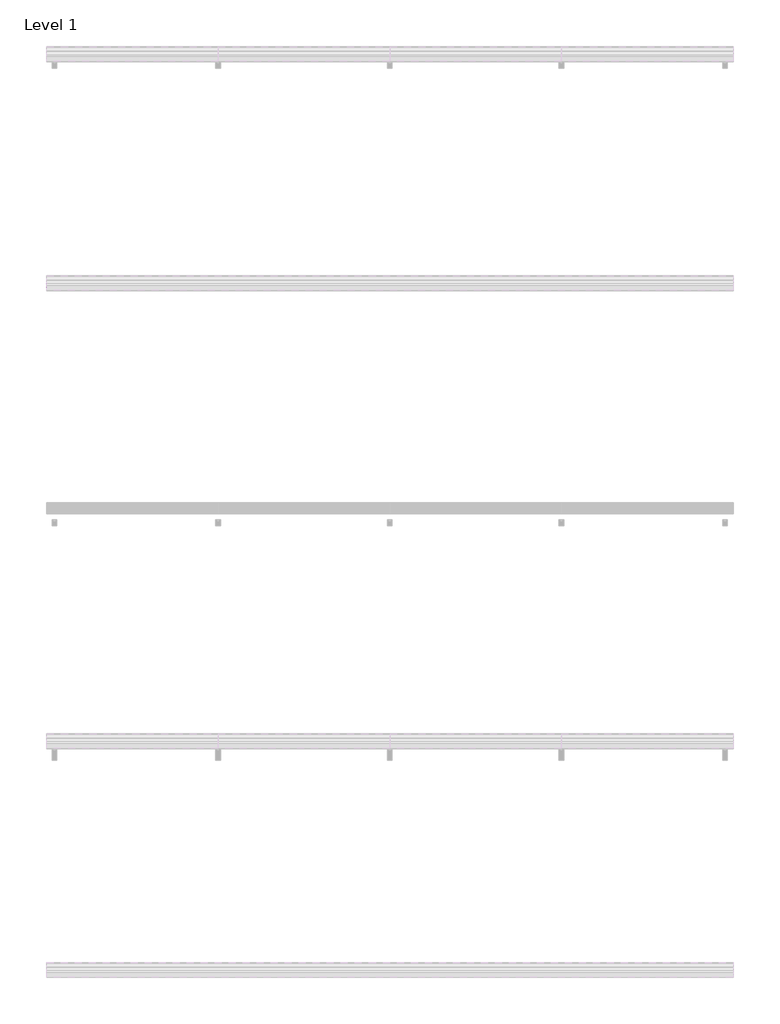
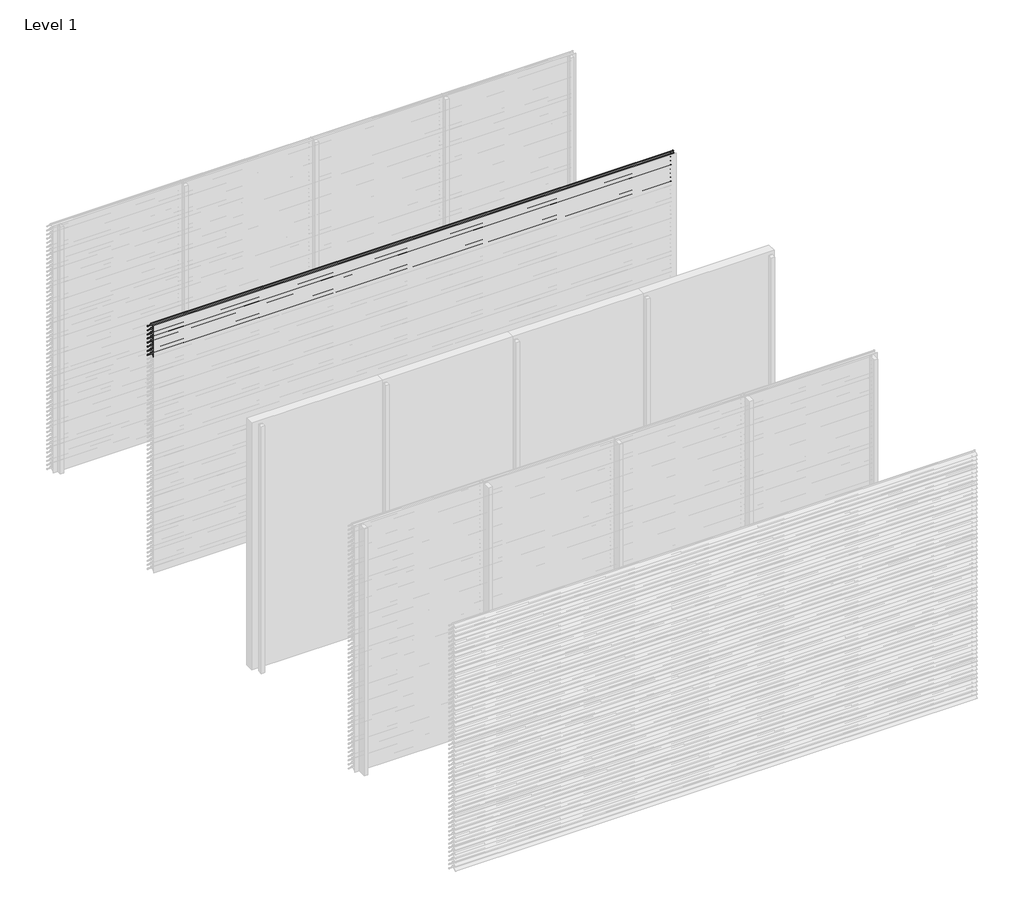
# One storey, part 71 of 173: 18 proxies.
"""IFC4 building model written with IfcOpenShell, lengths in millimetres."""

from ifc_helpers import new_model, si_unit, point, frame, frame_2d, origin, place, context, project, spatial, polyline, circle_curve, trimmed, segment, composite_curve, outline, extrude, element, save

model = new_model("IFC4")

# Units and contexts
model_context = context("Model", 3, world=origin())
ifc_project = project(units=[si_unit("LENGTHUNIT", "METRE", prefix="MILLI")], contexts=[model_context])

# Site, building, storey
site = spatial("IfcSite", under=ifc_project)
building = spatial("IfcBuilding", under=site)
storey = spatial("IfcBuildingStorey", under=building, Name="Level 1", Elevation=0.0)

# Proxies
placement = place(None, origin())
element("IfcBuildingElementProxy", 1, Name="Wall Sweeps", at=placement, inside=storey, context=model_context, shape_type="SweptSolid", body=[
    extrude(outline(composite_curve([segment(polyline([(-31998.0, 2959.1474905), (-31998.0, 2961.6227417)]), True, "CONTINUOUS"), segment(trimmed(circle_curve(frame_2d((-31951.2682172, 2916.2200208)), 65.1557103), [point((-31998.0, 2961.6227417))], [point((-31954.4014323, 2981.3003524))], False, "CARTESIAN"), True, "CONTINUOUS"), segment(polyline([(-31954.4014323, 2981.3003524), (-31934.8315836, 2981.3003524)]), True, "CONTINUOUS"), segment(trimmed(circle_curve(frame_2d((-31732.7329489, 3128.5533172)), 250.0545817), [point((-31934.8315836, 2981.3003524))], [point((-31941.4452143, 2990.8344583))], False, "CARTESIAN"), True, "CONTINUOUS"), segment(trimmed(circle_curve(frame_2d((-31953.2981792, 2985.1737835)), 13.1352966), [point((-31941.4452143, 2990.8344583))], [point((-31953.8171475, 2998.298824))], True, "CARTESIAN"), True, "CONTINUOUS"), segment(polyline([(-31953.8171475, 2998.298824), (-31953.8171475, 3000.0)]), True, "CONTINUOUS"), segment(trimmed(circle_curve(frame_2d((-31953.2981792, 2985.1737835)), 14.8352966), [point((-31953.8171475, 3000.0))], [point((-31939.9637661, 2991.6760487))], False, "CARTESIAN"), True, "CONTINUOUS"), segment(trimmed(circle_curve(frame_2d((-31732.7329489, 3128.5533172)), 248.3545817), [point((-31939.9637661, 2991.6760487))], [point((-31873.8787895, 2924.2059416))], True, "CARTESIAN"), True, "CONTINUOUS"), segment(trimmed(circle_curve(frame_2d((-31883.8147537, 2911.6649442)), 16.0), [point((-31873.8787895, 2924.2059416))], [point((-31867.8648347, 2910.4))], False, "CARTESIAN"), True, "CONTINUOUS"), segment(polyline([(-31867.8648347, 2910.4), (-31869.6712069, 2910.4)]), True, "CONTINUOUS"), segment(trimmed(circle_curve(frame_2d((-31883.8147537, 2911.6649442)), 14.2), [point((-31869.6712069, 2910.4))], [point((-31874.9518628, 2922.7594998))], True, "CARTESIAN"), True, "CONTINUOUS"), segment(trimmed(circle_curve(frame_2d((-31732.7329489, 3128.5533172)), 250.1545817), [point((-31874.9518628, 2922.7594998))], [point((-31933.7064024, 2979.6003524))], False, "CARTESIAN"), True, "CONTINUOUS"), segment(polyline([(-31933.7064024, 2979.6003524), (-31954.3602632, 2979.6003524)]), True, "CONTINUOUS"), segment(trimmed(circle_curve(frame_2d((-31951.2682172, 2916.2200208)), 63.4557103), [point((-31954.3602632, 2979.6003524))], [point((-31998.0, 2959.1474905))], True, "CARTESIAN"), True, "CONTINUOUS")], self_intersect=False)), frame((0.0, 0.0, 0.0), z_axis=(1.0, 0.0, 0.0), x_axis=(0.0, 1.0, 0.0)), (0.0, 0.0, 1.0), 6000.0),
])
element("IfcBuildingElementProxy", 2, Name="Wall Sweeps", at=placement, inside=storey, context=model_context, shape_type="SweptSolid", body=[
    extrude(outline(composite_curve([segment(polyline([(-31998.0, 2909.1474905), (-31998.0, 2911.6227417)]), True, "CONTINUOUS"), segment(trimmed(circle_curve(frame_2d((-31951.2682172, 2866.2200208)), 65.1557103), [point((-31998.0, 2911.6227417))], [point((-31954.4014323, 2931.3003524))], False, "CARTESIAN"), True, "CONTINUOUS"), segment(polyline([(-31954.4014323, 2931.3003524), (-31934.8315836, 2931.3003524)]), True, "CONTINUOUS"), segment(trimmed(circle_curve(frame_2d((-31732.7329489, 3078.5533172)), 250.0545817), [point((-31934.8315836, 2931.3003524))], [point((-31941.4452143, 2940.8344583))], False, "CARTESIAN"), True, "CONTINUOUS"), segment(trimmed(circle_curve(frame_2d((-31953.2981792, 2935.1737835)), 13.1352966), [point((-31941.4452143, 2940.8344583))], [point((-31953.8171475, 2948.298824))], True, "CARTESIAN"), True, "CONTINUOUS"), segment(polyline([(-31953.8171475, 2948.298824), (-31953.8171475, 2950.0)]), True, "CONTINUOUS"), segment(trimmed(circle_curve(frame_2d((-31953.2981792, 2935.1737835)), 14.8352966), [point((-31953.8171475, 2950.0))], [point((-31939.9637661, 2941.6760487))], False, "CARTESIAN"), True, "CONTINUOUS"), segment(trimmed(circle_curve(frame_2d((-31732.7329489, 3078.5533172)), 248.3545817), [point((-31939.9637661, 2941.6760487))], [point((-31873.8787895, 2874.2059416))], True, "CARTESIAN"), True, "CONTINUOUS"), segment(trimmed(circle_curve(frame_2d((-31883.8147537, 2861.6649442)), 16.0), [point((-31873.8787895, 2874.2059416))], [point((-31867.8648347, 2860.4))], False, "CARTESIAN"), True, "CONTINUOUS"), segment(polyline([(-31867.8648347, 2860.4), (-31869.6712069, 2860.4)]), True, "CONTINUOUS"), segment(trimmed(circle_curve(frame_2d((-31883.8147537, 2861.6649442)), 14.2), [point((-31869.6712069, 2860.4))], [point((-31874.9518628, 2872.7594998))], True, "CARTESIAN"), True, "CONTINUOUS"), segment(trimmed(circle_curve(frame_2d((-31732.7329489, 3078.5533172)), 250.1545817), [point((-31874.9518628, 2872.7594998))], [point((-31933.7064024, 2929.6003524))], False, "CARTESIAN"), True, "CONTINUOUS"), segment(polyline([(-31933.7064024, 2929.6003524), (-31954.3602632, 2929.6003524)]), True, "CONTINUOUS"), segment(trimmed(circle_curve(frame_2d((-31951.2682172, 2866.2200208)), 63.4557103), [point((-31954.3602632, 2929.6003524))], [point((-31998.0, 2909.1474905))], True, "CARTESIAN"), True, "CONTINUOUS")], self_intersect=False)), frame((0.0, 0.0, 0.0), z_axis=(1.0, 0.0, 0.0), x_axis=(0.0, 1.0, 0.0)), (0.0, 0.0, 1.0), 6000.0),
])
element("IfcBuildingElementProxy", 3, Name="Wall Sweeps", at=placement, inside=storey, context=model_context, shape_type="SweptSolid", body=[
    extrude(outline(composite_curve([segment(polyline([(-31998.0, 2859.1474905), (-31998.0, 2861.6227417)]), True, "CONTINUOUS"), segment(trimmed(circle_curve(frame_2d((-31951.2682172, 2816.2200208)), 65.1557103), [point((-31998.0, 2861.6227417))], [point((-31954.4014323, 2881.3003524))], False, "CARTESIAN"), True, "CONTINUOUS"), segment(polyline([(-31954.4014323, 2881.3003524), (-31934.8315836, 2881.3003524)]), True, "CONTINUOUS"), segment(trimmed(circle_curve(frame_2d((-31732.7329489, 3028.5533172)), 250.0545817), [point((-31934.8315836, 2881.3003524))], [point((-31941.4452143, 2890.8344583))], False, "CARTESIAN"), True, "CONTINUOUS"), segment(trimmed(circle_curve(frame_2d((-31953.2981792, 2885.1737835)), 13.1352966), [point((-31941.4452143, 2890.8344583))], [point((-31953.8171475, 2898.298824))], True, "CARTESIAN"), True, "CONTINUOUS"), segment(polyline([(-31953.8171475, 2898.298824), (-31953.8171475, 2900.0)]), True, "CONTINUOUS"), segment(trimmed(circle_curve(frame_2d((-31953.2981792, 2885.1737835)), 14.8352966), [point((-31953.8171475, 2900.0))], [point((-31939.9637661, 2891.6760487))], False, "CARTESIAN"), True, "CONTINUOUS"), segment(trimmed(circle_curve(frame_2d((-31732.7329489, 3028.5533172)), 248.3545817), [point((-31939.9637661, 2891.6760487))], [point((-31873.8787895, 2824.2059416))], True, "CARTESIAN"), True, "CONTINUOUS"), segment(trimmed(circle_curve(frame_2d((-31883.8147537, 2811.6649442)), 16.0), [point((-31873.8787895, 2824.2059416))], [point((-31867.8648347, 2810.4))], False, "CARTESIAN"), True, "CONTINUOUS"), segment(polyline([(-31867.8648347, 2810.4), (-31869.6712069, 2810.4)]), True, "CONTINUOUS"), segment(trimmed(circle_curve(frame_2d((-31883.8147537, 2811.6649442)), 14.2), [point((-31869.6712069, 2810.4))], [point((-31874.9518628, 2822.7594998))], True, "CARTESIAN"), True, "CONTINUOUS"), segment(trimmed(circle_curve(frame_2d((-31732.7329489, 3028.5533172)), 250.1545817), [point((-31874.9518628, 2822.7594998))], [point((-31933.7064024, 2879.6003524))], False, "CARTESIAN"), True, "CONTINUOUS"), segment(polyline([(-31933.7064024, 2879.6003524), (-31954.3602632, 2879.6003524)]), True, "CONTINUOUS"), segment(trimmed(circle_curve(frame_2d((-31951.2682172, 2816.2200208)), 63.4557103), [point((-31954.3602632, 2879.6003524))], [point((-31998.0, 2859.1474905))], True, "CARTESIAN"), True, "CONTINUOUS")], self_intersect=False)), frame((0.0, 0.0, 0.0), z_axis=(1.0, 0.0, 0.0), x_axis=(0.0, 1.0, 0.0)), (0.0, 0.0, 1.0), 6000.0),
])
element("IfcBuildingElementProxy", 4, Name="Wall Sweeps", at=placement, inside=storey, context=model_context, shape_type="SweptSolid", body=[
    extrude(outline(composite_curve([segment(polyline([(-31998.0, 2809.1474905), (-31998.0, 2811.6227417)]), True, "CONTINUOUS"), segment(trimmed(circle_curve(frame_2d((-31951.2682172, 2766.2200208)), 65.1557103), [point((-31998.0, 2811.6227417))], [point((-31954.4014323, 2831.3003524))], False, "CARTESIAN"), True, "CONTINUOUS"), segment(polyline([(-31954.4014323, 2831.3003524), (-31934.8315836, 2831.3003524)]), True, "CONTINUOUS"), segment(trimmed(circle_curve(frame_2d((-31732.7329489, 2978.5533172)), 250.0545817), [point((-31934.8315836, 2831.3003524))], [point((-31941.4452143, 2840.8344583))], False, "CARTESIAN"), True, "CONTINUOUS"), segment(trimmed(circle_curve(frame_2d((-31953.2981792, 2835.1737835)), 13.1352966), [point((-31941.4452143, 2840.8344583))], [point((-31953.8171475, 2848.298824))], True, "CARTESIAN"), True, "CONTINUOUS"), segment(polyline([(-31953.8171475, 2848.298824), (-31953.8171475, 2850.0)]), True, "CONTINUOUS"), segment(trimmed(circle_curve(frame_2d((-31953.2981792, 2835.1737835)), 14.8352966), [point((-31953.8171475, 2850.0))], [point((-31939.9637661, 2841.6760487))], False, "CARTESIAN"), True, "CONTINUOUS"), segment(trimmed(circle_curve(frame_2d((-31732.7329489, 2978.5533172)), 248.3545817), [point((-31939.9637661, 2841.6760487))], [point((-31873.8787895, 2774.2059416))], True, "CARTESIAN"), True, "CONTINUOUS"), segment(trimmed(circle_curve(frame_2d((-31883.8147537, 2761.6649442)), 16.0), [point((-31873.8787895, 2774.2059416))], [point((-31867.8648347, 2760.4))], False, "CARTESIAN"), True, "CONTINUOUS"), segment(polyline([(-31867.8648347, 2760.4), (-31869.6712069, 2760.4)]), True, "CONTINUOUS"), segment(trimmed(circle_curve(frame_2d((-31883.8147537, 2761.6649442)), 14.2), [point((-31869.6712069, 2760.4))], [point((-31874.9518628, 2772.7594998))], True, "CARTESIAN"), True, "CONTINUOUS"), segment(trimmed(circle_curve(frame_2d((-31732.7329489, 2978.5533172)), 250.1545817), [point((-31874.9518628, 2772.7594998))], [point((-31933.7064024, 2829.6003524))], False, "CARTESIAN"), True, "CONTINUOUS"), segment(polyline([(-31933.7064024, 2829.6003524), (-31954.3602632, 2829.6003524)]), True, "CONTINUOUS"), segment(trimmed(circle_curve(frame_2d((-31951.2682172, 2766.2200208)), 63.4557103), [point((-31954.3602632, 2829.6003524))], [point((-31998.0, 2809.1474905))], True, "CARTESIAN"), True, "CONTINUOUS")], self_intersect=False)), frame((0.0, 0.0, 0.0), z_axis=(1.0, 0.0, 0.0), x_axis=(0.0, 1.0, 0.0)), (0.0, 0.0, 1.0), 6000.0),
])
element("IfcBuildingElementProxy", 5, Name="Wall Sweeps", at=placement, inside=storey, context=model_context, shape_type="SweptSolid", body=[
    extrude(outline(composite_curve([segment(polyline([(-31998.0, 2759.1474905), (-31998.0, 2761.6227417)]), True, "CONTINUOUS"), segment(trimmed(circle_curve(frame_2d((-31951.2682172, 2716.2200208)), 65.1557103), [point((-31998.0, 2761.6227417))], [point((-31954.4014323, 2781.3003524))], False, "CARTESIAN"), True, "CONTINUOUS"), segment(polyline([(-31954.4014323, 2781.3003524), (-31934.8315836, 2781.3003524)]), True, "CONTINUOUS"), segment(trimmed(circle_curve(frame_2d((-31732.7329489, 2928.5533172)), 250.0545817), [point((-31934.8315836, 2781.3003524))], [point((-31941.4452143, 2790.8344583))], False, "CARTESIAN"), True, "CONTINUOUS"), segment(trimmed(circle_curve(frame_2d((-31953.2981792, 2785.1737835)), 13.1352966), [point((-31941.4452143, 2790.8344583))], [point((-31953.8171475, 2798.298824))], True, "CARTESIAN"), True, "CONTINUOUS"), segment(polyline([(-31953.8171475, 2798.298824), (-31953.8171475, 2800.0)]), True, "CONTINUOUS"), segment(trimmed(circle_curve(frame_2d((-31953.2981792, 2785.1737835)), 14.8352966), [point((-31953.8171475, 2800.0))], [point((-31939.9637661, 2791.6760487))], False, "CARTESIAN"), True, "CONTINUOUS"), segment(trimmed(circle_curve(frame_2d((-31732.7329489, 2928.5533172)), 248.3545817), [point((-31939.9637661, 2791.6760487))], [point((-31873.8787895, 2724.2059416))], True, "CARTESIAN"), True, "CONTINUOUS"), segment(trimmed(circle_curve(frame_2d((-31883.8147537, 2711.6649442)), 16.0), [point((-31873.8787895, 2724.2059416))], [point((-31867.8648347, 2710.4))], False, "CARTESIAN"), True, "CONTINUOUS"), segment(polyline([(-31867.8648347, 2710.4), (-31869.6712069, 2710.4)]), True, "CONTINUOUS"), segment(trimmed(circle_curve(frame_2d((-31883.8147537, 2711.6649442)), 14.2), [point((-31869.6712069, 2710.4))], [point((-31874.9518628, 2722.7594998))], True, "CARTESIAN"), True, "CONTINUOUS"), segment(trimmed(circle_curve(frame_2d((-31732.7329489, 2928.5533172)), 250.1545817), [point((-31874.9518628, 2722.7594998))], [point((-31933.7064024, 2779.6003524))], False, "CARTESIAN"), True, "CONTINUOUS"), segment(polyline([(-31933.7064024, 2779.6003524), (-31954.3602632, 2779.6003524)]), True, "CONTINUOUS"), segment(trimmed(circle_curve(frame_2d((-31951.2682172, 2716.2200208)), 63.4557103), [point((-31954.3602632, 2779.6003524))], [point((-31998.0, 2759.1474905))], True, "CARTESIAN"), True, "CONTINUOUS")], self_intersect=False)), frame((0.0, 0.0, 0.0), z_axis=(1.0, 0.0, 0.0), x_axis=(0.0, 1.0, 0.0)), (0.0, 0.0, 1.0), 6000.0),
])
element("IfcBuildingElementProxy", 6, Name="Wall Sweeps", at=placement, inside=storey, context=model_context, shape_type="SweptSolid", body=[
    extrude(outline(composite_curve([segment(polyline([(-31998.0, 2709.1474905), (-31998.0, 2711.6227417)]), True, "CONTINUOUS"), segment(trimmed(circle_curve(frame_2d((-31951.2682172, 2666.2200208)), 65.1557103), [point((-31998.0, 2711.6227417))], [point((-31954.4014323, 2731.3003524))], False, "CARTESIAN"), True, "CONTINUOUS"), segment(polyline([(-31954.4014323, 2731.3003524), (-31934.8315836, 2731.3003524)]), True, "CONTINUOUS"), segment(trimmed(circle_curve(frame_2d((-31732.7329489, 2878.5533172)), 250.0545817), [point((-31934.8315836, 2731.3003524))], [point((-31941.4452143, 2740.8344583))], False, "CARTESIAN"), True, "CONTINUOUS"), segment(trimmed(circle_curve(frame_2d((-31953.2981792, 2735.1737835)), 13.1352966), [point((-31941.4452143, 2740.8344583))], [point((-31953.8171475, 2748.298824))], True, "CARTESIAN"), True, "CONTINUOUS"), segment(polyline([(-31953.8171475, 2748.298824), (-31953.8171475, 2750.0)]), True, "CONTINUOUS"), segment(trimmed(circle_curve(frame_2d((-31953.2981792, 2735.1737835)), 14.8352966), [point((-31953.8171475, 2750.0))], [point((-31939.9637661, 2741.6760487))], False, "CARTESIAN"), True, "CONTINUOUS"), segment(trimmed(circle_curve(frame_2d((-31732.7329489, 2878.5533172)), 248.3545817), [point((-31939.9637661, 2741.6760487))], [point((-31873.8787895, 2674.2059416))], True, "CARTESIAN"), True, "CONTINUOUS"), segment(trimmed(circle_curve(frame_2d((-31883.8147537, 2661.6649442)), 16.0), [point((-31873.8787895, 2674.2059416))], [point((-31867.8648347, 2660.4))], False, "CARTESIAN"), True, "CONTINUOUS"), segment(polyline([(-31867.8648347, 2660.4), (-31869.6712069, 2660.4)]), True, "CONTINUOUS"), segment(trimmed(circle_curve(frame_2d((-31883.8147537, 2661.6649442)), 14.2), [point((-31869.6712069, 2660.4))], [point((-31874.9518628, 2672.7594998))], True, "CARTESIAN"), True, "CONTINUOUS"), segment(trimmed(circle_curve(frame_2d((-31732.7329489, 2878.5533172)), 250.1545817), [point((-31874.9518628, 2672.7594998))], [point((-31933.7064024, 2729.6003524))], False, "CARTESIAN"), True, "CONTINUOUS"), segment(polyline([(-31933.7064024, 2729.6003524), (-31954.3602632, 2729.6003524)]), True, "CONTINUOUS"), segment(trimmed(circle_curve(frame_2d((-31951.2682172, 2666.2200208)), 63.4557103), [point((-31954.3602632, 2729.6003524))], [point((-31998.0, 2709.1474905))], True, "CARTESIAN"), True, "CONTINUOUS")], self_intersect=False)), frame((0.0, 0.0, 0.0), z_axis=(1.0, 0.0, 0.0), x_axis=(0.0, 1.0, 0.0)), (0.0, 0.0, 1.0), 6000.0),
])
element("IfcBuildingElementProxy", 7, Name="Wall Sweeps", at=placement, inside=storey, context=model_context, shape_type="SweptSolid", body=[
    extrude(outline(composite_curve([segment(polyline([(-31998.0, 2659.1474905), (-31998.0, 2661.6227417)]), True, "CONTINUOUS"), segment(trimmed(circle_curve(frame_2d((-31951.2682172, 2616.2200208)), 65.1557103), [point((-31998.0, 2661.6227417))], [point((-31954.4014323, 2681.3003524))], False, "CARTESIAN"), True, "CONTINUOUS"), segment(polyline([(-31954.4014323, 2681.3003524), (-31934.8315836, 2681.3003524)]), True, "CONTINUOUS"), segment(trimmed(circle_curve(frame_2d((-31732.7329489, 2828.5533172)), 250.0545817), [point((-31934.8315836, 2681.3003524))], [point((-31941.4452143, 2690.8344583))], False, "CARTESIAN"), True, "CONTINUOUS"), segment(trimmed(circle_curve(frame_2d((-31953.2981792, 2685.1737835)), 13.1352966), [point((-31941.4452143, 2690.8344583))], [point((-31953.8171475, 2698.298824))], True, "CARTESIAN"), True, "CONTINUOUS"), segment(polyline([(-31953.8171475, 2698.298824), (-31953.8171475, 2700.0)]), True, "CONTINUOUS"), segment(trimmed(circle_curve(frame_2d((-31953.2981792, 2685.1737835)), 14.8352966), [point((-31953.8171475, 2700.0))], [point((-31939.9637661, 2691.6760487))], False, "CARTESIAN"), True, "CONTINUOUS"), segment(trimmed(circle_curve(frame_2d((-31732.7329489, 2828.5533172)), 248.3545817), [point((-31939.9637661, 2691.6760487))], [point((-31873.8787895, 2624.2059416))], True, "CARTESIAN"), True, "CONTINUOUS"), segment(trimmed(circle_curve(frame_2d((-31883.8147537, 2611.6649442)), 16.0), [point((-31873.8787895, 2624.2059416))], [point((-31867.8648347, 2610.4))], False, "CARTESIAN"), True, "CONTINUOUS"), segment(polyline([(-31867.8648347, 2610.4), (-31869.6712069, 2610.4)]), True, "CONTINUOUS"), segment(trimmed(circle_curve(frame_2d((-31883.8147537, 2611.6649442)), 14.2), [point((-31869.6712069, 2610.4))], [point((-31874.9518628, 2622.7594998))], True, "CARTESIAN"), True, "CONTINUOUS"), segment(trimmed(circle_curve(frame_2d((-31732.7329489, 2828.5533172)), 250.1545817), [point((-31874.9518628, 2622.7594998))], [point((-31933.7064024, 2679.6003524))], False, "CARTESIAN"), True, "CONTINUOUS"), segment(polyline([(-31933.7064024, 2679.6003524), (-31954.3602632, 2679.6003524)]), True, "CONTINUOUS"), segment(trimmed(circle_curve(frame_2d((-31951.2682172, 2616.2200208)), 63.4557103), [point((-31954.3602632, 2679.6003524))], [point((-31998.0, 2659.1474905))], True, "CARTESIAN"), True, "CONTINUOUS")], self_intersect=False)), frame((0.0, 0.0, 0.0), z_axis=(1.0, 0.0, 0.0), x_axis=(0.0, 1.0, 0.0)), (0.0, 0.0, 1.0), 6000.0),
])
element("IfcBuildingElementProxy", 8, Name="Wall Sweeps", at=placement, inside=storey, context=model_context, shape_type="SweptSolid", body=[
    extrude(outline(composite_curve([segment(polyline([(-31998.0, 2609.1474905), (-31998.0, 2611.6227417)]), True, "CONTINUOUS"), segment(trimmed(circle_curve(frame_2d((-31951.2682172, 2566.2200208)), 65.1557103), [point((-31998.0, 2611.6227417))], [point((-31954.4014323, 2631.3003524))], False, "CARTESIAN"), True, "CONTINUOUS"), segment(polyline([(-31954.4014323, 2631.3003524), (-31934.8315836, 2631.3003524)]), True, "CONTINUOUS"), segment(trimmed(circle_curve(frame_2d((-31732.7329489, 2778.5533172)), 250.0545817), [point((-31934.8315836, 2631.3003524))], [point((-31941.4452143, 2640.8344583))], False, "CARTESIAN"), True, "CONTINUOUS"), segment(trimmed(circle_curve(frame_2d((-31953.2981792, 2635.1737835)), 13.1352966), [point((-31941.4452143, 2640.8344583))], [point((-31953.8171475, 2648.298824))], True, "CARTESIAN"), True, "CONTINUOUS"), segment(polyline([(-31953.8171475, 2648.298824), (-31953.8171475, 2650.0)]), True, "CONTINUOUS"), segment(trimmed(circle_curve(frame_2d((-31953.2981792, 2635.1737835)), 14.8352966), [point((-31953.8171475, 2650.0))], [point((-31939.9637661, 2641.6760487))], False, "CARTESIAN"), True, "CONTINUOUS"), segment(trimmed(circle_curve(frame_2d((-31732.7329489, 2778.5533172)), 248.3545817), [point((-31939.9637661, 2641.6760487))], [point((-31873.8787895, 2574.2059416))], True, "CARTESIAN"), True, "CONTINUOUS"), segment(trimmed(circle_curve(frame_2d((-31883.8147537, 2561.6649442)), 16.0), [point((-31873.8787895, 2574.2059416))], [point((-31867.8648347, 2560.4))], False, "CARTESIAN"), True, "CONTINUOUS"), segment(polyline([(-31867.8648347, 2560.4), (-31869.6712069, 2560.4)]), True, "CONTINUOUS"), segment(trimmed(circle_curve(frame_2d((-31883.8147537, 2561.6649442)), 14.2), [point((-31869.6712069, 2560.4))], [point((-31874.9518628, 2572.7594998))], True, "CARTESIAN"), True, "CONTINUOUS"), segment(trimmed(circle_curve(frame_2d((-31732.7329489, 2778.5533172)), 250.1545817), [point((-31874.9518628, 2572.7594998))], [point((-31933.7064024, 2629.6003524))], False, "CARTESIAN"), True, "CONTINUOUS"), segment(polyline([(-31933.7064024, 2629.6003524), (-31954.3602632, 2629.6003524)]), True, "CONTINUOUS"), segment(trimmed(circle_curve(frame_2d((-31951.2682172, 2566.2200208)), 63.4557103), [point((-31954.3602632, 2629.6003524))], [point((-31998.0, 2609.1474905))], True, "CARTESIAN"), True, "CONTINUOUS")], self_intersect=False)), frame((0.0, 0.0, 0.0), z_axis=(1.0, 0.0, 0.0), x_axis=(0.0, 1.0, 0.0)), (0.0, 0.0, 1.0), 6000.0),
])
element("IfcBuildingElementProxy", 9, Name="Wall Sweeps", at=placement, inside=storey, context=model_context, shape_type="SweptSolid", body=[
    extrude(outline(composite_curve([segment(polyline([(-35998.0, 459.1474905), (-35998.0, 461.6227417)]), True, "CONTINUOUS"), segment(trimmed(circle_curve(frame_2d((-35951.2682172, 416.2200208)), 65.1557103), [point((-35998.0, 461.6227417))], [point((-35954.4014323, 481.3003524))], False, "CARTESIAN"), True, "CONTINUOUS"), segment(polyline([(-35954.4014323, 481.3003524), (-35934.8315836, 481.3003524)]), True, "CONTINUOUS"), segment(trimmed(circle_curve(frame_2d((-35732.7329489, 628.5533172)), 250.0545817), [point((-35934.8315836, 481.3003524))], [point((-35941.4452143, 490.8344583))], False, "CARTESIAN"), True, "CONTINUOUS"), segment(trimmed(circle_curve(frame_2d((-35953.2981792, 485.1737835)), 13.1352966), [point((-35941.4452143, 490.8344583))], [point((-35953.8171475, 498.298824))], True, "CARTESIAN"), True, "CONTINUOUS"), segment(polyline([(-35953.8171475, 498.298824), (-35953.8171475, 500.0)]), True, "CONTINUOUS"), segment(trimmed(circle_curve(frame_2d((-35953.2981792, 485.1737835)), 14.8352966), [point((-35953.8171475, 500.0))], [point((-35939.9637661, 491.6760487))], False, "CARTESIAN"), True, "CONTINUOUS"), segment(trimmed(circle_curve(frame_2d((-35732.7329489, 628.5533172)), 248.3545817), [point((-35939.9637661, 491.6760487))], [point((-35873.8787895, 424.2059416))], True, "CARTESIAN"), True, "CONTINUOUS"), segment(trimmed(circle_curve(frame_2d((-35883.8147537, 411.6649442)), 16.0), [point((-35873.8787895, 424.2059416))], [point((-35867.8648347, 410.4))], False, "CARTESIAN"), True, "CONTINUOUS"), segment(polyline([(-35867.8648347, 410.4), (-35869.6712069, 410.4)]), True, "CONTINUOUS"), segment(trimmed(circle_curve(frame_2d((-35883.8147537, 411.6649442)), 14.2), [point((-35869.6712069, 410.4))], [point((-35874.9518628, 422.7594998))], True, "CARTESIAN"), True, "CONTINUOUS"), segment(trimmed(circle_curve(frame_2d((-35732.7329489, 628.5533172)), 250.1545817), [point((-35874.9518628, 422.7594998))], [point((-35933.7064024, 479.6003524))], False, "CARTESIAN"), True, "CONTINUOUS"), segment(polyline([(-35933.7064024, 479.6003524), (-35954.3602632, 479.6003524)]), True, "CONTINUOUS"), segment(trimmed(circle_curve(frame_2d((-35951.2682172, 416.2200208)), 63.4557103), [point((-35954.3602632, 479.6003524))], [point((-35998.0, 459.1474905))], True, "CARTESIAN"), True, "CONTINUOUS")], self_intersect=False)), frame((4500.0, 0.0, 0.0), z_axis=(1.0, 0.0, 0.0), x_axis=(0.0, 1.0, 0.0)), (0.0, 0.0, 1.0), 1500.0),
])
element("IfcBuildingElementProxy", 10, Name="Wall Sweeps", at=placement, inside=storey, context=model_context, shape_type="SweptSolid", body=[
    extrude(outline(composite_curve([segment(polyline([(-35998.0, 409.1474905), (-35998.0, 411.6227417)]), True, "CONTINUOUS"), segment(trimmed(circle_curve(frame_2d((-35951.2682172, 366.2200208)), 65.1557103), [point((-35998.0, 411.6227417))], [point((-35954.4014323, 431.3003524))], False, "CARTESIAN"), True, "CONTINUOUS"), segment(polyline([(-35954.4014323, 431.3003524), (-35934.8315836, 431.3003524)]), True, "CONTINUOUS"), segment(trimmed(circle_curve(frame_2d((-35732.7329489, 578.5533172)), 250.0545817), [point((-35934.8315836, 431.3003524))], [point((-35941.4452143, 440.8344583))], False, "CARTESIAN"), True, "CONTINUOUS"), segment(trimmed(circle_curve(frame_2d((-35953.2981792, 435.1737835)), 13.1352966), [point((-35941.4452143, 440.8344583))], [point((-35953.8171475, 448.298824))], True, "CARTESIAN"), True, "CONTINUOUS"), segment(polyline([(-35953.8171475, 448.298824), (-35953.8171475, 450.0)]), True, "CONTINUOUS"), segment(trimmed(circle_curve(frame_2d((-35953.2981792, 435.1737835)), 14.8352966), [point((-35953.8171475, 450.0))], [point((-35939.9637661, 441.6760487))], False, "CARTESIAN"), True, "CONTINUOUS"), segment(trimmed(circle_curve(frame_2d((-35732.7329489, 578.5533172)), 248.3545817), [point((-35939.9637661, 441.6760487))], [point((-35873.8787895, 374.2059416))], True, "CARTESIAN"), True, "CONTINUOUS"), segment(trimmed(circle_curve(frame_2d((-35883.8147537, 361.6649442)), 16.0), [point((-35873.8787895, 374.2059416))], [point((-35867.8648347, 360.4))], False, "CARTESIAN"), True, "CONTINUOUS"), segment(polyline([(-35867.8648347, 360.4), (-35869.6712069, 360.4)]), True, "CONTINUOUS"), segment(trimmed(circle_curve(frame_2d((-35883.8147537, 361.6649442)), 14.2), [point((-35869.6712069, 360.4))], [point((-35874.9518628, 372.7594998))], True, "CARTESIAN"), True, "CONTINUOUS"), segment(trimmed(circle_curve(frame_2d((-35732.7329489, 578.5533172)), 250.1545817), [point((-35874.9518628, 372.7594998))], [point((-35933.7064024, 429.6003524))], False, "CARTESIAN"), True, "CONTINUOUS"), segment(polyline([(-35933.7064024, 429.6003524), (-35954.3602632, 429.6003524)]), True, "CONTINUOUS"), segment(trimmed(circle_curve(frame_2d((-35951.2682172, 366.2200208)), 63.4557103), [point((-35954.3602632, 429.6003524))], [point((-35998.0, 409.1474905))], True, "CARTESIAN"), True, "CONTINUOUS")], self_intersect=False)), frame((4500.0, 0.0, 0.0), z_axis=(1.0, 0.0, 0.0), x_axis=(0.0, 1.0, 0.0)), (0.0, 0.0, 1.0), 1500.0),
])
element("IfcBuildingElementProxy", 11, Name="Wall Sweeps", at=placement, inside=storey, context=model_context, shape_type="SweptSolid", body=[
    extrude(outline(composite_curve([segment(polyline([(-35998.0, 359.1474905), (-35998.0, 361.6227417)]), True, "CONTINUOUS"), segment(trimmed(circle_curve(frame_2d((-35951.2682172, 316.2200208)), 65.1557103), [point((-35998.0, 361.6227417))], [point((-35954.4014323, 381.3003524))], False, "CARTESIAN"), True, "CONTINUOUS"), segment(polyline([(-35954.4014323, 381.3003524), (-35934.8315836, 381.3003524)]), True, "CONTINUOUS"), segment(trimmed(circle_curve(frame_2d((-35732.7329489, 528.5533172)), 250.0545817), [point((-35934.8315836, 381.3003524))], [point((-35941.4452143, 390.8344583))], False, "CARTESIAN"), True, "CONTINUOUS"), segment(trimmed(circle_curve(frame_2d((-35953.2981792, 385.1737835)), 13.1352966), [point((-35941.4452143, 390.8344583))], [point((-35953.8171475, 398.298824))], True, "CARTESIAN"), True, "CONTINUOUS"), segment(polyline([(-35953.8171475, 398.298824), (-35953.8171475, 400.0)]), True, "CONTINUOUS"), segment(trimmed(circle_curve(frame_2d((-35953.2981792, 385.1737835)), 14.8352966), [point((-35953.8171475, 400.0))], [point((-35939.9637661, 391.6760487))], False, "CARTESIAN"), True, "CONTINUOUS"), segment(trimmed(circle_curve(frame_2d((-35732.7329489, 528.5533172)), 248.3545817), [point((-35939.9637661, 391.6760487))], [point((-35873.8787895, 324.2059416))], True, "CARTESIAN"), True, "CONTINUOUS"), segment(trimmed(circle_curve(frame_2d((-35883.8147537, 311.6649442)), 16.0), [point((-35873.8787895, 324.2059416))], [point((-35867.8648347, 310.4))], False, "CARTESIAN"), True, "CONTINUOUS"), segment(polyline([(-35867.8648347, 310.4), (-35869.6712069, 310.4)]), True, "CONTINUOUS"), segment(trimmed(circle_curve(frame_2d((-35883.8147537, 311.6649442)), 14.2), [point((-35869.6712069, 310.4))], [point((-35874.9518628, 322.7594998))], True, "CARTESIAN"), True, "CONTINUOUS"), segment(trimmed(circle_curve(frame_2d((-35732.7329489, 528.5533172)), 250.1545817), [point((-35874.9518628, 322.7594998))], [point((-35933.7064024, 379.6003524))], False, "CARTESIAN"), True, "CONTINUOUS"), segment(polyline([(-35933.7064024, 379.6003524), (-35954.3602632, 379.6003524)]), True, "CONTINUOUS"), segment(trimmed(circle_curve(frame_2d((-35951.2682172, 316.2200208)), 63.4557103), [point((-35954.3602632, 379.6003524))], [point((-35998.0, 359.1474905))], True, "CARTESIAN"), True, "CONTINUOUS")], self_intersect=False)), frame((4500.0, 0.0, 0.0), z_axis=(1.0, 0.0, 0.0), x_axis=(0.0, 1.0, 0.0)), (0.0, 0.0, 1.0), 1500.0),
])
element("IfcBuildingElementProxy", 12, Name="Wall Sweeps", at=placement, inside=storey, context=model_context, shape_type="SweptSolid", body=[
    extrude(outline(composite_curve([segment(polyline([(-35998.0, 309.1474905), (-35998.0, 311.6227417)]), True, "CONTINUOUS"), segment(trimmed(circle_curve(frame_2d((-35951.2682172, 266.2200208)), 65.1557103), [point((-35998.0, 311.6227417))], [point((-35954.4014323, 331.3003524))], False, "CARTESIAN"), True, "CONTINUOUS"), segment(polyline([(-35954.4014323, 331.3003524), (-35934.8315836, 331.3003524)]), True, "CONTINUOUS"), segment(trimmed(circle_curve(frame_2d((-35732.7329489, 478.5533172)), 250.0545817), [point((-35934.8315836, 331.3003524))], [point((-35941.4452143, 340.8344583))], False, "CARTESIAN"), True, "CONTINUOUS"), segment(trimmed(circle_curve(frame_2d((-35953.2981792, 335.1737835)), 13.1352966), [point((-35941.4452143, 340.8344583))], [point((-35953.8171475, 348.298824))], True, "CARTESIAN"), True, "CONTINUOUS"), segment(polyline([(-35953.8171475, 348.298824), (-35953.8171475, 350.0)]), True, "CONTINUOUS"), segment(trimmed(circle_curve(frame_2d((-35953.2981792, 335.1737835)), 14.8352966), [point((-35953.8171475, 350.0))], [point((-35939.9637661, 341.6760487))], False, "CARTESIAN"), True, "CONTINUOUS"), segment(trimmed(circle_curve(frame_2d((-35732.7329489, 478.5533172)), 248.3545817), [point((-35939.9637661, 341.6760487))], [point((-35873.8787895, 274.2059416))], True, "CARTESIAN"), True, "CONTINUOUS"), segment(trimmed(circle_curve(frame_2d((-35883.8147537, 261.6649442)), 16.0), [point((-35873.8787895, 274.2059416))], [point((-35867.8648347, 260.4))], False, "CARTESIAN"), True, "CONTINUOUS"), segment(polyline([(-35867.8648347, 260.4), (-35869.6712069, 260.4)]), True, "CONTINUOUS"), segment(trimmed(circle_curve(frame_2d((-35883.8147537, 261.6649442)), 14.2), [point((-35869.6712069, 260.4))], [point((-35874.9518628, 272.7594998))], True, "CARTESIAN"), True, "CONTINUOUS"), segment(trimmed(circle_curve(frame_2d((-35732.7329489, 478.5533172)), 250.1545817), [point((-35874.9518628, 272.7594998))], [point((-35933.7064024, 329.6003524))], False, "CARTESIAN"), True, "CONTINUOUS"), segment(polyline([(-35933.7064024, 329.6003524), (-35954.3602632, 329.6003524)]), True, "CONTINUOUS"), segment(trimmed(circle_curve(frame_2d((-35951.2682172, 266.2200208)), 63.4557103), [point((-35954.3602632, 329.6003524))], [point((-35998.0, 309.1474905))], True, "CARTESIAN"), True, "CONTINUOUS")], self_intersect=False)), frame((4500.0, 0.0, 0.0), z_axis=(1.0, 0.0, 0.0), x_axis=(0.0, 1.0, 0.0)), (0.0, 0.0, 1.0), 1500.0),
])
element("IfcBuildingElementProxy", 13, Name="Wall Sweeps", at=placement, inside=storey, context=model_context, shape_type="SweptSolid", body=[
    extrude(outline(composite_curve([segment(polyline([(-35998.0, 259.1474905), (-35998.0, 261.6227417)]), True, "CONTINUOUS"), segment(trimmed(circle_curve(frame_2d((-35951.2682172, 216.2200208)), 65.1557103), [point((-35998.0, 261.6227417))], [point((-35954.4014323, 281.3003524))], False, "CARTESIAN"), True, "CONTINUOUS"), segment(polyline([(-35954.4014323, 281.3003524), (-35934.8315836, 281.3003524)]), True, "CONTINUOUS"), segment(trimmed(circle_curve(frame_2d((-35732.7329489, 428.5533172)), 250.0545817), [point((-35934.8315836, 281.3003524))], [point((-35941.4452143, 290.8344583))], False, "CARTESIAN"), True, "CONTINUOUS"), segment(trimmed(circle_curve(frame_2d((-35953.2981792, 285.1737835)), 13.1352966), [point((-35941.4452143, 290.8344583))], [point((-35953.8171475, 298.298824))], True, "CARTESIAN"), True, "CONTINUOUS"), segment(polyline([(-35953.8171475, 298.298824), (-35953.8171475, 300.0)]), True, "CONTINUOUS"), segment(trimmed(circle_curve(frame_2d((-35953.2981792, 285.1737835)), 14.8352966), [point((-35953.8171475, 300.0))], [point((-35939.9637661, 291.6760487))], False, "CARTESIAN"), True, "CONTINUOUS"), segment(trimmed(circle_curve(frame_2d((-35732.7329489, 428.5533172)), 248.3545817), [point((-35939.9637661, 291.6760487))], [point((-35873.8787895, 224.2059416))], True, "CARTESIAN"), True, "CONTINUOUS"), segment(trimmed(circle_curve(frame_2d((-35883.8147537, 211.6649442)), 16.0), [point((-35873.8787895, 224.2059416))], [point((-35867.8648347, 210.4))], False, "CARTESIAN"), True, "CONTINUOUS"), segment(polyline([(-35867.8648347, 210.4), (-35869.6712069, 210.4)]), True, "CONTINUOUS"), segment(trimmed(circle_curve(frame_2d((-35883.8147537, 211.6649442)), 14.2), [point((-35869.6712069, 210.4))], [point((-35874.9518628, 222.7594998))], True, "CARTESIAN"), True, "CONTINUOUS"), segment(trimmed(circle_curve(frame_2d((-35732.7329489, 428.5533172)), 250.1545817), [point((-35874.9518628, 222.7594998))], [point((-35933.7064024, 279.6003524))], False, "CARTESIAN"), True, "CONTINUOUS"), segment(polyline([(-35933.7064024, 279.6003524), (-35954.3602632, 279.6003524)]), True, "CONTINUOUS"), segment(trimmed(circle_curve(frame_2d((-35951.2682172, 216.2200208)), 63.4557103), [point((-35954.3602632, 279.6003524))], [point((-35998.0, 259.1474905))], True, "CARTESIAN"), True, "CONTINUOUS")], self_intersect=False)), frame((4500.0, 0.0, 0.0), z_axis=(1.0, 0.0, 0.0), x_axis=(0.0, 1.0, 0.0)), (0.0, 0.0, 1.0), 1500.0),
])
element("IfcBuildingElementProxy", 14, Name="Wall Sweeps", at=placement, inside=storey, context=model_context, shape_type="SweptSolid", body=[
    extrude(outline(composite_curve([segment(polyline([(-35998.0, 209.1474905), (-35998.0, 211.6227417)]), True, "CONTINUOUS"), segment(trimmed(circle_curve(frame_2d((-35951.2682172, 166.2200208)), 65.1557103), [point((-35998.0, 211.6227417))], [point((-35954.4014323, 231.3003524))], False, "CARTESIAN"), True, "CONTINUOUS"), segment(polyline([(-35954.4014323, 231.3003524), (-35934.8315836, 231.3003524)]), True, "CONTINUOUS"), segment(trimmed(circle_curve(frame_2d((-35732.7329489, 378.5533172)), 250.0545817), [point((-35934.8315836, 231.3003524))], [point((-35941.4452143, 240.8344583))], False, "CARTESIAN"), True, "CONTINUOUS"), segment(trimmed(circle_curve(frame_2d((-35953.2981792, 235.1737835)), 13.1352966), [point((-35941.4452143, 240.8344583))], [point((-35953.8171475, 248.298824))], True, "CARTESIAN"), True, "CONTINUOUS"), segment(polyline([(-35953.8171475, 248.298824), (-35953.8171475, 250.0)]), True, "CONTINUOUS"), segment(trimmed(circle_curve(frame_2d((-35953.2981792, 235.1737835)), 14.8352966), [point((-35953.8171475, 250.0))], [point((-35939.9637661, 241.6760487))], False, "CARTESIAN"), True, "CONTINUOUS"), segment(trimmed(circle_curve(frame_2d((-35732.7329489, 378.5533172)), 248.3545817), [point((-35939.9637661, 241.6760487))], [point((-35873.8787895, 174.2059416))], True, "CARTESIAN"), True, "CONTINUOUS"), segment(trimmed(circle_curve(frame_2d((-35883.8147537, 161.6649442)), 16.0), [point((-35873.8787895, 174.2059416))], [point((-35867.8648347, 160.4))], False, "CARTESIAN"), True, "CONTINUOUS"), segment(polyline([(-35867.8648347, 160.4), (-35869.6712069, 160.4)]), True, "CONTINUOUS"), segment(trimmed(circle_curve(frame_2d((-35883.8147537, 161.6649442)), 14.2), [point((-35869.6712069, 160.4))], [point((-35874.9518628, 172.7594998))], True, "CARTESIAN"), True, "CONTINUOUS"), segment(trimmed(circle_curve(frame_2d((-35732.7329489, 378.5533172)), 250.1545817), [point((-35874.9518628, 172.7594998))], [point((-35933.7064024, 229.6003524))], False, "CARTESIAN"), True, "CONTINUOUS"), segment(polyline([(-35933.7064024, 229.6003524), (-35954.3602632, 229.6003524)]), True, "CONTINUOUS"), segment(trimmed(circle_curve(frame_2d((-35951.2682172, 166.2200208)), 63.4557103), [point((-35954.3602632, 229.6003524))], [point((-35998.0, 209.1474905))], True, "CARTESIAN"), True, "CONTINUOUS")], self_intersect=False)), frame((4500.0, 0.0, 0.0), z_axis=(1.0, 0.0, 0.0), x_axis=(0.0, 1.0, 0.0)), (0.0, 0.0, 1.0), 1500.0),
])
element("IfcBuildingElementProxy", 15, Name="Wall Sweeps", at=placement, inside=storey, context=model_context, shape_type="SweptSolid", body=[
    extrude(outline(composite_curve([segment(polyline([(-35998.0, 159.1474905), (-35998.0, 161.6227417)]), True, "CONTINUOUS"), segment(trimmed(circle_curve(frame_2d((-35951.2682172, 116.2200208)), 65.1557103), [point((-35998.0, 161.6227417))], [point((-35954.4014323, 181.3003524))], False, "CARTESIAN"), True, "CONTINUOUS"), segment(polyline([(-35954.4014323, 181.3003524), (-35934.8315836, 181.3003524)]), True, "CONTINUOUS"), segment(trimmed(circle_curve(frame_2d((-35732.7329489, 328.5533172)), 250.0545817), [point((-35934.8315836, 181.3003524))], [point((-35941.4452143, 190.8344583))], False, "CARTESIAN"), True, "CONTINUOUS"), segment(trimmed(circle_curve(frame_2d((-35953.2981792, 185.1737835)), 13.1352966), [point((-35941.4452143, 190.8344583))], [point((-35953.8171475, 198.298824))], True, "CARTESIAN"), True, "CONTINUOUS"), segment(polyline([(-35953.8171475, 198.298824), (-35953.8171475, 200.0)]), True, "CONTINUOUS"), segment(trimmed(circle_curve(frame_2d((-35953.2981792, 185.1737835)), 14.8352966), [point((-35953.8171475, 200.0))], [point((-35939.9637661, 191.6760487))], False, "CARTESIAN"), True, "CONTINUOUS"), segment(trimmed(circle_curve(frame_2d((-35732.7329489, 328.5533172)), 248.3545817), [point((-35939.9637661, 191.6760487))], [point((-35873.8787895, 124.2059416))], True, "CARTESIAN"), True, "CONTINUOUS"), segment(trimmed(circle_curve(frame_2d((-35883.8147537, 111.6649442)), 16.0), [point((-35873.8787895, 124.2059416))], [point((-35867.8648347, 110.4))], False, "CARTESIAN"), True, "CONTINUOUS"), segment(polyline([(-35867.8648347, 110.4), (-35869.6712069, 110.4)]), True, "CONTINUOUS"), segment(trimmed(circle_curve(frame_2d((-35883.8147537, 111.6649442)), 14.2), [point((-35869.6712069, 110.4))], [point((-35874.9518628, 122.7594998))], True, "CARTESIAN"), True, "CONTINUOUS"), segment(trimmed(circle_curve(frame_2d((-35732.7329489, 328.5533172)), 250.1545817), [point((-35874.9518628, 122.7594998))], [point((-35933.7064024, 179.6003524))], False, "CARTESIAN"), True, "CONTINUOUS"), segment(polyline([(-35933.7064024, 179.6003524), (-35954.3602632, 179.6003524)]), True, "CONTINUOUS"), segment(trimmed(circle_curve(frame_2d((-35951.2682172, 116.2200208)), 63.4557103), [point((-35954.3602632, 179.6003524))], [point((-35998.0, 159.1474905))], True, "CARTESIAN"), True, "CONTINUOUS")], self_intersect=False)), frame((4500.0, 0.0, 0.0), z_axis=(1.0, 0.0, 0.0), x_axis=(0.0, 1.0, 0.0)), (0.0, 0.0, 1.0), 1500.0),
])
element("IfcBuildingElementProxy", 16, Name="Wall Sweeps", at=placement, inside=storey, context=model_context, shape_type="SweptSolid", body=[
    extrude(outline(composite_curve([segment(polyline([(-35998.0, 109.1474905), (-35998.0, 111.6227417)]), True, "CONTINUOUS"), segment(trimmed(circle_curve(frame_2d((-35951.2682172, 66.2200208)), 65.1557103), [point((-35998.0, 111.6227417))], [point((-35954.4014323, 131.3003524))], False, "CARTESIAN"), True, "CONTINUOUS"), segment(polyline([(-35954.4014323, 131.3003524), (-35934.8315836, 131.3003524)]), True, "CONTINUOUS"), segment(trimmed(circle_curve(frame_2d((-35732.7329489, 278.5533172)), 250.0545817), [point((-35934.8315836, 131.3003524))], [point((-35941.4452143, 140.8344583))], False, "CARTESIAN"), True, "CONTINUOUS"), segment(trimmed(circle_curve(frame_2d((-35953.2981792, 135.1737835)), 13.1352966), [point((-35941.4452143, 140.8344583))], [point((-35953.8171475, 148.298824))], True, "CARTESIAN"), True, "CONTINUOUS"), segment(polyline([(-35953.8171475, 148.298824), (-35953.8171475, 150.0)]), True, "CONTINUOUS"), segment(trimmed(circle_curve(frame_2d((-35953.2981792, 135.1737835)), 14.8352966), [point((-35953.8171475, 150.0))], [point((-35939.9637661, 141.6760487))], False, "CARTESIAN"), True, "CONTINUOUS"), segment(trimmed(circle_curve(frame_2d((-35732.7329489, 278.5533172)), 248.3545817), [point((-35939.9637661, 141.6760487))], [point((-35873.8787895, 74.2059416))], True, "CARTESIAN"), True, "CONTINUOUS"), segment(trimmed(circle_curve(frame_2d((-35883.8147537, 61.6649442)), 16.0), [point((-35873.8787895, 74.2059416))], [point((-35867.8648347, 60.4))], False, "CARTESIAN"), True, "CONTINUOUS"), segment(polyline([(-35867.8648347, 60.4), (-35869.6712069, 60.4)]), True, "CONTINUOUS"), segment(trimmed(circle_curve(frame_2d((-35883.8147537, 61.6649442)), 14.2), [point((-35869.6712069, 60.4))], [point((-35874.9518628, 72.7594998))], True, "CARTESIAN"), True, "CONTINUOUS"), segment(trimmed(circle_curve(frame_2d((-35732.7329489, 278.5533172)), 250.1545817), [point((-35874.9518628, 72.7594998))], [point((-35933.7064024, 129.6003524))], False, "CARTESIAN"), True, "CONTINUOUS"), segment(polyline([(-35933.7064024, 129.6003524), (-35954.3602632, 129.6003524)]), True, "CONTINUOUS"), segment(trimmed(circle_curve(frame_2d((-35951.2682172, 66.2200208)), 63.4557103), [point((-35954.3602632, 129.6003524))], [point((-35998.0, 109.1474905))], True, "CARTESIAN"), True, "CONTINUOUS")], self_intersect=False)), frame((4500.0, 0.0, 0.0), z_axis=(1.0, 0.0, 0.0), x_axis=(0.0, 1.0, 0.0)), (0.0, 0.0, 1.0), 1500.0),
])
element("IfcBuildingElementProxy", 17, Name="Wall Sweeps", at=placement, inside=storey, context=model_context, shape_type="SweptSolid", body=[
    extrude(outline(composite_curve([segment(polyline([(-35998.0, 59.1474905), (-35998.0, 61.6227417)]), True, "CONTINUOUS"), segment(trimmed(circle_curve(frame_2d((-35951.2682172, 16.2200208)), 65.1557103), [point((-35998.0, 61.6227417))], [point((-35954.4014323, 81.3003524))], False, "CARTESIAN"), True, "CONTINUOUS"), segment(polyline([(-35954.4014323, 81.3003524), (-35934.8315836, 81.3003524)]), True, "CONTINUOUS"), segment(trimmed(circle_curve(frame_2d((-35732.7329489, 228.5533172)), 250.0545817), [point((-35934.8315836, 81.3003524))], [point((-35941.4452143, 90.8344583))], False, "CARTESIAN"), True, "CONTINUOUS"), segment(trimmed(circle_curve(frame_2d((-35953.2981792, 85.1737835)), 13.1352966), [point((-35941.4452143, 90.8344583))], [point((-35953.8171475, 98.298824))], True, "CARTESIAN"), True, "CONTINUOUS"), segment(polyline([(-35953.8171475, 98.298824), (-35953.8171475, 100.0)]), True, "CONTINUOUS"), segment(trimmed(circle_curve(frame_2d((-35953.2981792, 85.1737835)), 14.8352966), [point((-35953.8171475, 100.0))], [point((-35939.9637661, 91.6760487))], False, "CARTESIAN"), True, "CONTINUOUS"), segment(trimmed(circle_curve(frame_2d((-35732.7329489, 228.5533172)), 248.3545817), [point((-35939.9637661, 91.6760487))], [point((-35873.8787895, 24.2059416))], True, "CARTESIAN"), True, "CONTINUOUS"), segment(trimmed(circle_curve(frame_2d((-35883.8147537, 11.6649442)), 16.0), [point((-35873.8787895, 24.2059416))], [point((-35867.8648347, 10.4))], False, "CARTESIAN"), True, "CONTINUOUS"), segment(polyline([(-35867.8648347, 10.4), (-35869.6712069, 10.4)]), True, "CONTINUOUS"), segment(trimmed(circle_curve(frame_2d((-35883.8147537, 11.6649442)), 14.2), [point((-35869.6712069, 10.4))], [point((-35874.9518628, 22.7594998))], True, "CARTESIAN"), True, "CONTINUOUS"), segment(trimmed(circle_curve(frame_2d((-35732.7329489, 228.5533172)), 250.1545817), [point((-35874.9518628, 22.7594998))], [point((-35933.7064024, 79.6003524))], False, "CARTESIAN"), True, "CONTINUOUS"), segment(polyline([(-35933.7064024, 79.6003524), (-35954.3602632, 79.6003524)]), True, "CONTINUOUS"), segment(trimmed(circle_curve(frame_2d((-35951.2682172, 16.2200208)), 63.4557103), [point((-35954.3602632, 79.6003524))], [point((-35998.0, 59.1474905))], True, "CARTESIAN"), True, "CONTINUOUS")], self_intersect=False)), frame((4500.0, 0.0, 0.0), z_axis=(1.0, 0.0, 0.0), x_axis=(0.0, 1.0, 0.0)), (0.0, 0.0, 1.0), 1500.0),
])
element("IfcBuildingElementProxy", 18, Name="Wall Sweeps", at=placement, inside=storey, context=model_context, shape_type="SweptSolid", body=[
    extrude(outline(composite_curve([segment(polyline([(-35998.0, 9.1474905), (-35998.0, 11.6227417)]), True, "CONTINUOUS"), segment(trimmed(circle_curve(frame_2d((-35951.2682172, -33.7799792)), 65.1557103), [point((-35998.0, 11.6227417))], [point((-35954.4014323, 31.3003524))], False, "CARTESIAN"), True, "CONTINUOUS"), segment(polyline([(-35954.4014323, 31.3003524), (-35934.8315836, 31.3003524)]), True, "CONTINUOUS"), segment(trimmed(circle_curve(frame_2d((-35732.7329489, 178.5533172)), 250.0545817), [point((-35934.8315836, 31.3003524))], [point((-35941.4452143, 40.8344583))], False, "CARTESIAN"), True, "CONTINUOUS"), segment(trimmed(circle_curve(frame_2d((-35953.2981792, 35.1737835)), 13.1352966), [point((-35941.4452143, 40.8344583))], [point((-35953.8171475, 48.298824))], True, "CARTESIAN"), True, "CONTINUOUS"), segment(polyline([(-35953.8171475, 48.298824), (-35953.8171475, 50.0)]), True, "CONTINUOUS"), segment(trimmed(circle_curve(frame_2d((-35953.2981792, 35.1737835)), 14.8352966), [point((-35953.8171475, 50.0))], [point((-35939.9637661, 41.6760487))], False, "CARTESIAN"), True, "CONTINUOUS"), segment(trimmed(circle_curve(frame_2d((-35732.7329489, 178.5533172)), 248.3545817), [point((-35939.9637661, 41.6760487))], [point((-35873.8787895, -25.7940584))], True, "CARTESIAN"), True, "CONTINUOUS"), segment(trimmed(circle_curve(frame_2d((-35883.8147537, -38.3350558)), 16.0), [point((-35873.8787895, -25.7940584))], [point((-35867.8648347, -39.6))], False, "CARTESIAN"), True, "CONTINUOUS"), segment(polyline([(-35867.8648347, -39.6), (-35869.6712069, -39.6)]), True, "CONTINUOUS"), segment(trimmed(circle_curve(frame_2d((-35883.8147537, -38.3350558)), 14.2), [point((-35869.6712069, -39.6))], [point((-35874.9518628, -27.2405002))], True, "CARTESIAN"), True, "CONTINUOUS"), segment(trimmed(circle_curve(frame_2d((-35732.7329489, 178.5533172)), 250.1545817), [point((-35874.9518628, -27.2405002))], [point((-35933.7064024, 29.6003524))], False, "CARTESIAN"), True, "CONTINUOUS"), segment(polyline([(-35933.7064024, 29.6003524), (-35954.3602632, 29.6003524)]), True, "CONTINUOUS"), segment(trimmed(circle_curve(frame_2d((-35951.2682172, -33.7799792)), 63.4557103), [point((-35954.3602632, 29.6003524))], [point((-35998.0, 9.1474905))], True, "CARTESIAN"), True, "CONTINUOUS")], self_intersect=False)), frame((4500.0, 0.0, 0.0), z_axis=(1.0, 0.0, 0.0), x_axis=(0.0, 1.0, 0.0)), (0.0, 0.0, 1.0), 1500.0),
])

save(model, "model.ifc")
